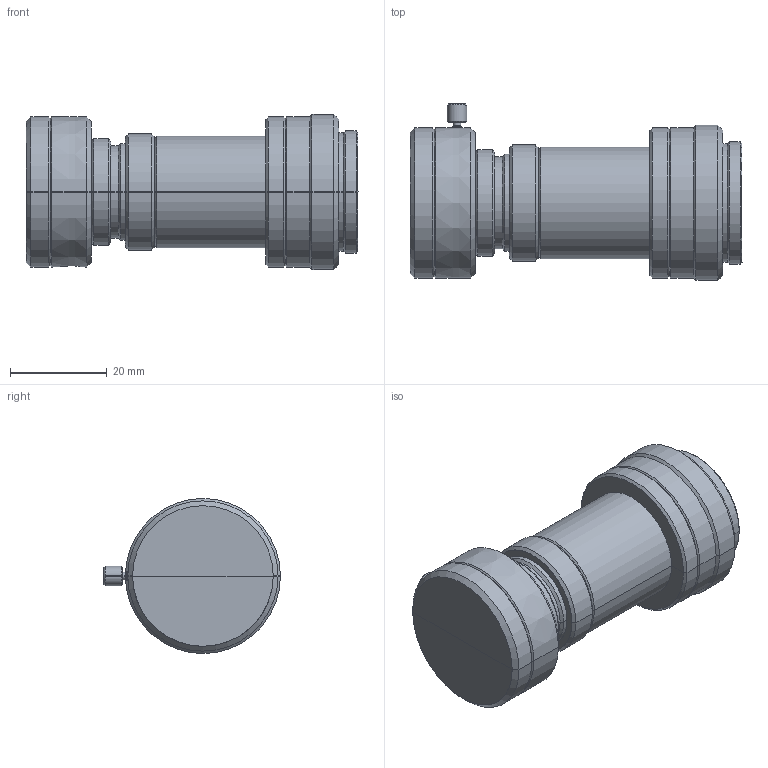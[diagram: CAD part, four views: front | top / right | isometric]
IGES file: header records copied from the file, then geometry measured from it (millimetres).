
Start section: SolidWorks IGES file using analytic representation for surfaces
Global section: file name: \\192.168.200.11\Development\01 マクロレンズ\02 VS-MC series\01 可変倍率モデル\050 VS-MC0510S\作成中_3D\VS-MC0510S.IGS; native system: SolidWorks 2014; preprocessor: SolidWorks 2014; author: miura_vst; date: 141028.102426; units: millimetre
Bounding box: 68.5 x 36.5 x 32 mm (x, y, z)
Surface area: 8219.9 mm2 (no closed solid volume)
Topology: 0 solids, 0 shells, 85 faces, 640 edges, 636 vertices
Faces by surface type: revolution 80, bspline 5
